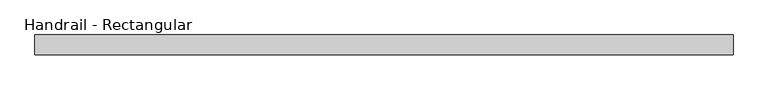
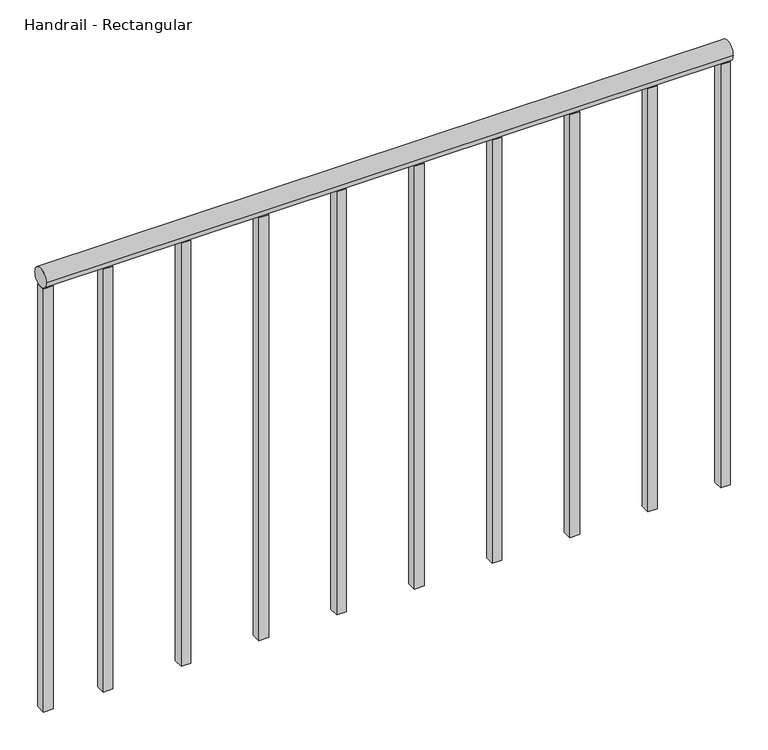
"""IFC4 building model written with IfcOpenShell, lengths in millimetres: railing geometry, Handrail - Rectangular."""

from ifc_helpers import new_model, si_unit, point, frame, frame_2d, origin, place, context, project, spatial, polyline, circle_curve, trimmed, segment, composite_curve, outline, extrude, source, transform, mapped, element, save


def handrail_rectangular_5d94c17a(model_context):
    return source(origin(), model_context, "Body", "SweptSolid", [
        extrude(outline(composite_curve([segment(trimmed(circle_curve(frame_2d((11944.8316867, 3943.35)), 19.05), [point((11963.8816867, 3943.35))], [point((11925.7816867, 3943.35))], False, "CARTESIAN"), True, "CONTINUOUS"), segment(trimmed(circle_curve(frame_2d((11944.8316867, 3943.35)), 19.05), [point((11925.7816867, 3943.35))], [point((11963.8816867, 3943.35))], False, "CARTESIAN"), True, "CONTINUOUS")], self_intersect=False)), frame((-25550.7839563, 0.0, 0.0), z_axis=(1.0, 0.0, 0.0), x_axis=(0.0, 1.0, 0.0)), (0.0, 0.0, 1.0), 1346.2),
        extrude(outline(polyline([(-25414.2589563, 11935.3066867), (-25433.3089563, 11935.3066867), (-25433.3089563, 11954.3566867), (-25414.2589563, 11954.3566867), (-25414.2589563, 11935.3066867)])), frame((0.0, 0.0, 3048.0), z_axis=(0.0, 0.0, 1.0), x_axis=(1.0, 0.0, 0.0)), (0.0, 0.0, 1.0), 876.3),
        extrude(outline(polyline([(-25261.8589563, 11935.3066867), (-25280.9089563, 11935.3066867), (-25280.9089563, 11954.3566867), (-25261.8589563, 11954.3566867), (-25261.8589563, 11935.3066867)])), frame((0.0, 0.0, 3048.0), z_axis=(0.0, 0.0, 1.0), x_axis=(1.0, 0.0, 0.0)), (0.0, 0.0, 1.0), 876.3),
        extrude(outline(polyline([(-25109.4589563, 11935.3066867), (-25128.5089563, 11935.3066867), (-25128.5089563, 11954.3566867), (-25109.4589563, 11954.3566867), (-25109.4589563, 11935.3066867)])), frame((0.0, 0.0, 3048.0), z_axis=(0.0, 0.0, 1.0), x_axis=(1.0, 0.0, 0.0)), (0.0, 0.0, 1.0), 876.3),
        extrude(outline(polyline([(-24957.0589563, 11935.3066867), (-24976.1089563, 11935.3066867), (-24976.1089563, 11954.3566867), (-24957.0589563, 11954.3566867), (-24957.0589563, 11935.3066867)])), frame((0.0, 0.0, 3048.0), z_axis=(0.0, 0.0, 1.0), x_axis=(1.0, 0.0, 0.0)), (0.0, 0.0, 1.0), 876.3),
        extrude(outline(polyline([(-24804.6589563, 11935.3066867), (-24823.7089563, 11935.3066867), (-24823.7089563, 11954.3566867), (-24804.6589563, 11954.3566867), (-24804.6589563, 11935.3066867)])), frame((0.0, 0.0, 3048.0), z_axis=(0.0, 0.0, 1.0), x_axis=(1.0, 0.0, 0.0)), (0.0, 0.0, 1.0), 876.3),
        extrude(outline(polyline([(-24652.2589563, 11935.3066867), (-24671.3089563, 11935.3066867), (-24671.3089563, 11954.3566867), (-24652.2589563, 11954.3566867), (-24652.2589563, 11935.3066867)])), frame((0.0, 0.0, 3048.0), z_axis=(0.0, 0.0, 1.0), x_axis=(1.0, 0.0, 0.0)), (0.0, 0.0, 1.0), 876.3),
        extrude(outline(polyline([(-24499.8589563, 11935.3066867), (-24518.9089563, 11935.3066867), (-24518.9089563, 11954.3566867), (-24499.8589563, 11954.3566867), (-24499.8589563, 11935.3066867)])), frame((0.0, 0.0, 3048.0), z_axis=(0.0, 0.0, 1.0), x_axis=(1.0, 0.0, 0.0)), (0.0, 0.0, 1.0), 876.3),
        extrude(outline(polyline([(-24347.4589563, 11935.3066867), (-24366.5089563, 11935.3066867), (-24366.5089563, 11954.3566867), (-24347.4589563, 11954.3566867), (-24347.4589563, 11935.3066867)])), frame((0.0, 0.0, 3048.0), z_axis=(0.0, 0.0, 1.0), x_axis=(1.0, 0.0, 0.0)), (0.0, 0.0, 1.0), 876.3),
        extrude(outline(polyline([(-25531.7339563, 11935.3066867), (-25550.7839563, 11935.3066867), (-25550.7839563, 11954.3566867), (-25531.7339563, 11954.3566867), (-25531.7339563, 11935.3066867)])), frame((0.0, 0.0, 3048.0), z_axis=(0.0, 0.0, 1.0), x_axis=(1.0, 0.0, 0.0)), (0.0, 0.0, 1.0), 876.3),
        extrude(outline(polyline([(-24204.5839563, 11935.3066867), (-24223.6339563, 11935.3066867), (-24223.6339563, 11954.3566867), (-24204.5839563, 11954.3566867), (-24204.5839563, 11935.3066867)])), frame((0.0, 0.0, 3048.0), z_axis=(0.0, 0.0, 1.0), x_axis=(1.0, 0.0, 0.0)), (0.0, 0.0, 1.0), 876.3),
    ])


if __name__ == "__main__":
    model = new_model("IFC4")
    model_context = context("Model", 3, world=origin())
    ifc_project = project(units=[si_unit("LENGTHUNIT", "METRE", prefix="MILLI")], contexts=[model_context])
    site = spatial("IfcSite", under=ifc_project)
    building = spatial("IfcBuilding", under=site)
    placement = place(None, origin())
    handrail_rectangular_shape = handrail_rectangular_5d94c17a(model_context)
    element("IfcRailing", 1, ObjectType="Handrail - Rectangular", at=placement, inside=building, context=model_context, shape_type="MappedRepresentation", body=[
        mapped(handrail_rectangular_shape, transform((0.0, 0.0, 0.0), x_axis=(1.0, 0.0, 0.0), y_axis=(0.0, 1.0, 0.0), z_axis=(0.0, 0.0, 1.0))),
    ])
    save(model, "model.ifc")
